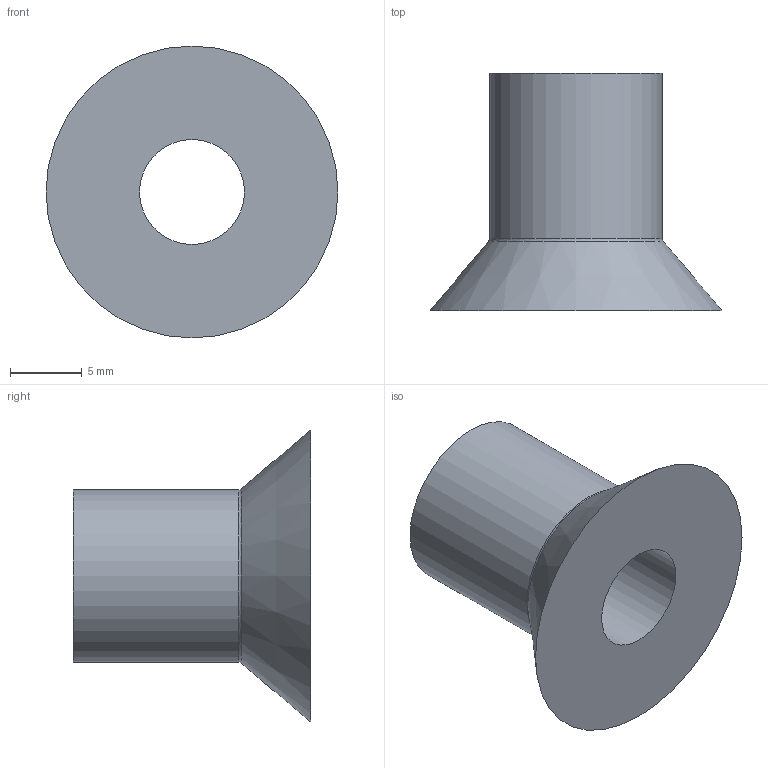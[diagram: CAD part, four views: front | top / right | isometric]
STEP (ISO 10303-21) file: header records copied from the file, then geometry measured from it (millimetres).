
FILE_DESCRIPTION((''),'2;1');
FILE_NAME('S:\Technik\Konstruktion\CAD-Daten\Kundenmodelle\107.020.015_Kd.stp','2010-10-04T10:22:50',('JGarcia-Martinez'),(''),'Autodesk Inventor 2009','Autodesk Inventor 2009','');
FILE_SCHEMA(('AUTOMOTIVE_DESIGN { 1 0 10303 214 1 1 1 1 }'));
Length unit declared in the file: millimetre
Products named in the file (1): 107.020
Bounding box: 20.3 x 16.5 x 20.3 mm (x, y, z)
Volume: 1647.2 mm3; surface area: 1494.2 mm2
Topology: 1 solids, 1 shells, 6 faces, 10 edges, 6 vertices
Faces by surface type: cylinder 2, plane 2, cone 1, bspline 1
Full cylindrical faces by diameter (mm): 7.3 x1, 12 x1
Entity records: 194 total; most frequent: CARTESIAN_POINT 63, DIRECTION 24, AXIS2_PLACEMENT_3D 12, ORIENTED_EDGE 12, EDGE_LOOP 12, VERTEX_POINT 6, CIRCLE 6, EDGE_CURVE 6
